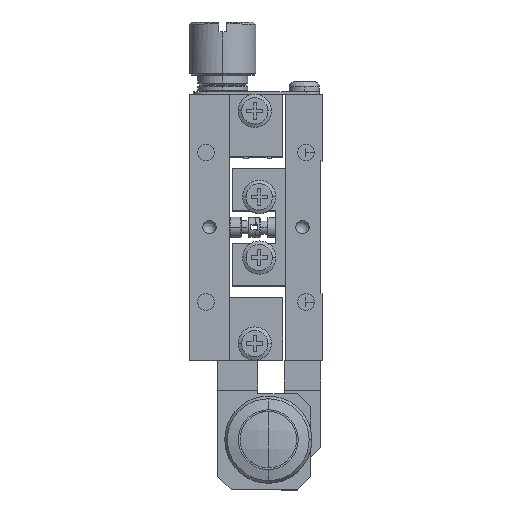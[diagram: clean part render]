
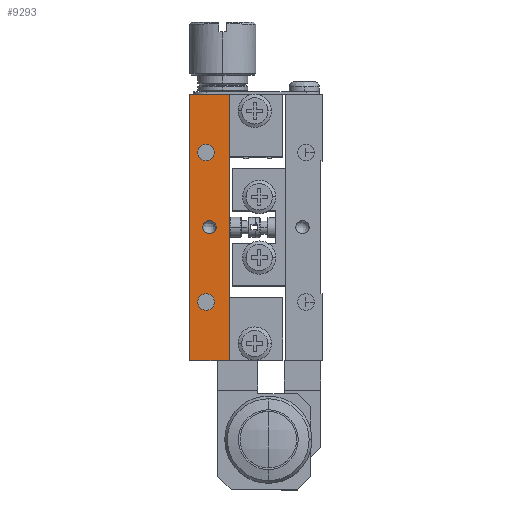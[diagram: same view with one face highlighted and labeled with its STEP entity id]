
A CAD part, top view. The second image highlights one B-rep face of the part: STEP entity #9293.
In plain terms, the highlighted planar face has unit normal (0, 0, 1).
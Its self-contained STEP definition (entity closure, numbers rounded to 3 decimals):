
#41 = CARTESIAN_POINT ( 'NONE',  ( 0., 2.722, 0. ) ) ;
#317 = VECTOR ( 'NONE', #24583, 1000. ) ;
#1327 = CARTESIAN_POINT ( 'NONE',  ( 6., 42.722, 0. ) ) ;
#1512 = CARTESIAN_POINT ( 'NONE',  ( 1.25, 11.472, 0. ) ) ;
#2452 = VERTEX_POINT ( 'NONE', #1512 ) ;
#3404 = DIRECTION ( 'NONE',  ( 0., 0., -1. ) ) ;
#3733 = AXIS2_PLACEMENT_3D ( 'NONE', #22382, #6510, #25038 ) ;
#4489 = VERTEX_POINT ( 'NONE', #41 ) ;
#4827 = CIRCLE ( 'NONE', #30861, 1.25 ) ;
#5208 = CARTESIAN_POINT ( 'NONE',  ( 7., 42.722, 0. ) ) ;
#5332 = LINE ( 'NONE', #22854, #24780 ) ;
#5737 = CARTESIAN_POINT ( 'NONE',  ( 6.12, 1.922, 0. ) ) ;
#5766 = CIRCLE ( 'NONE', #14795, 1.25 ) ;
#6506 = EDGE_CURVE ( 'NONE', #14714, #17416, #5766, .T. ) ;
#6510 = DIRECTION ( 'NONE',  ( 0., 0., -1. ) ) ;
#6718 = EDGE_CURVE ( 'NONE', #14613, #23394, #11539, .T. ) ;
#7116 = EDGE_CURVE ( 'NONE', #10207, #4489, #5332, .T. ) ;
#7528 = EDGE_CURVE ( 'NONE', #4489, #14613, #22253, .T. ) ;
#7630 = EDGE_CURVE ( 'NONE', #18199, #31587, #32989, .T. ) ;
#7863 = DIRECTION ( 'NONE',  ( 1., 0., 0. ) ) ;
#7871 = CARTESIAN_POINT ( 'NONE',  ( 2.5, 33.972, 0. ) ) ;
#8200 = CARTESIAN_POINT ( 'NONE',  ( 2., 22.722, 0. ) ) ;
#8215 = AXIS2_PLACEMENT_3D ( 'NONE', #19250, #3404, #21903 ) ;
#8273 = PLANE ( 'NONE',  #24386 ) ;
#8381 = DIRECTION ( 'NONE',  ( 0., 1., 0. ) ) ;
#8453 = EDGE_CURVE ( 'NONE', #17416, #14714, #27118, .T. ) ;
#8831 = ORIENTED_EDGE ( 'NONE', *, *, #7630, .T. ) ;
#8983 = ORIENTED_EDGE ( 'NONE', *, *, #17808, .T. ) ;
#9231 = FACE_OUTER_BOUND ( 'NONE', #15013, .T. ) ;
#9293 = ADVANCED_FACE ( 'NONE', ( #27840, #14640, #28682, #9231 ), #8273, .T. ) ;
#9476 = CARTESIAN_POINT ( 'NONE',  ( 2.5, 33.972, 0. ) ) ;
#9781 = CARTESIAN_POINT ( 'NONE',  ( 6., 22.722, 0. ) ) ;
#9812 = EDGE_CURVE ( 'NONE', #31587, #18199, #34244, .T. ) ;
#10207 = VERTEX_POINT ( 'NONE', #33996 ) ;
#10532 = DIRECTION ( 'NONE',  ( 1., 0., 0. ) ) ;
#10588 = ORIENTED_EDGE ( 'NONE', *, *, #8453, .T. ) ;
#11040 = ORIENTED_EDGE ( 'NONE', *, *, #7116, .F. ) ;
#11539 = LINE ( 'NONE', #5208, #31786 ) ;
#12160 = DIRECTION ( 'NONE',  ( 1., 0., 0. ) ) ;
#13722 = VECTOR ( 'NONE', #30944, 1000. ) ;
#14607 = CARTESIAN_POINT ( 'NONE',  ( 2.5, 11.472, 0. ) ) ;
#14613 = VERTEX_POINT ( 'NONE', #29453 ) ;
#14640 = FACE_BOUND ( 'NONE', #30943, .T. ) ;
#14714 = VERTEX_POINT ( 'NONE', #29792 ) ;
#14795 = AXIS2_PLACEMENT_3D ( 'NONE', #9476, #27980, #12160 ) ;
#15013 = EDGE_LOOP ( 'NONE', ( #16159, #11040, #22486, #29666 ) ) ;
#15131 = VERTEX_POINT ( 'NONE', #28719 ) ;
#15296 = AXIS2_PLACEMENT_3D ( 'NONE', #7871, #26364, #10532 ) ;
#15551 = CARTESIAN_POINT ( 'NONE',  ( 2.5, 11.472, 0. ) ) ;
#16159 = ORIENTED_EDGE ( 'NONE', *, *, #7528, .F. ) ;
#17273 = DIRECTION ( 'NONE',  ( 1., 0., 0. ) ) ;
#17416 = VERTEX_POINT ( 'NONE', #23743 ) ;
#17589 = EDGE_LOOP ( 'NONE', ( #21739, #8831 ) ) ;
#17808 = EDGE_CURVE ( 'NONE', #15131, #2452, #23601, .T. ) ;
#18199 = VERTEX_POINT ( 'NONE', #8200 ) ;
#18204 = DIRECTION ( 'NONE',  ( 1., 0., 0. ) ) ;
#19250 = CARTESIAN_POINT ( 'NONE',  ( 3., 22.722, 0. ) ) ;
#19286 = CARTESIAN_POINT ( 'NONE',  ( 0., 22.722, 0. ) ) ;
#21739 = ORIENTED_EDGE ( 'NONE', *, *, #9812, .T. ) ;
#21903 = DIRECTION ( 'NONE',  ( 1., 0., 0. ) ) ;
#22253 = LINE ( 'NONE', #19286, #317 ) ;
#22382 = CARTESIAN_POINT ( 'NONE',  ( 3., 22.722, 0. ) ) ;
#22486 = ORIENTED_EDGE ( 'NONE', *, *, #29261, .T. ) ;
#22748 = DIRECTION ( 'NONE',  ( -1., 0., 0. ) ) ;
#22854 = CARTESIAN_POINT ( 'NONE',  ( 7., 2.722, 0. ) ) ;
#23394 = VERTEX_POINT ( 'NONE', #1327 ) ;
#23601 = CIRCLE ( 'NONE', #25901, 1.25 ) ;
#23743 = CARTESIAN_POINT ( 'NONE',  ( 1.25, 33.972, 0. ) ) ;
#24223 = DIRECTION ( 'NONE',  ( 0., 0., 1. ) ) ;
#24289 = ORIENTED_EDGE ( 'NONE', *, *, #31147, .T. ) ;
#24386 = AXIS2_PLACEMENT_3D ( 'NONE', #5737, #24223, #8381 ) ;
#24555 = EDGE_LOOP ( 'NONE', ( #8983, #24289 ) ) ;
#24583 = DIRECTION ( 'NONE',  ( 0., 1., 0. ) ) ;
#24780 = VECTOR ( 'NONE', #22748, 1000. ) ;
#25038 = DIRECTION ( 'NONE',  ( 1., 0., 0. ) ) ;
#25901 = AXIS2_PLACEMENT_3D ( 'NONE', #14607, #33086, #17273 ) ;
#26364 = DIRECTION ( 'NONE',  ( 0., 0., -1. ) ) ;
#27118 = CIRCLE ( 'NONE', #15296, 1.25 ) ;
#27732 = LINE ( 'NONE', #9781, #13722 ) ;
#27840 = FACE_BOUND ( 'NONE', #17589, .T. ) ;
#27980 = DIRECTION ( 'NONE',  ( 0., 0., -1. ) ) ;
#28682 = FACE_BOUND ( 'NONE', #24555, .T. ) ;
#28719 = CARTESIAN_POINT ( 'NONE',  ( 3.75, 11.472, 0. ) ) ;
#29261 = EDGE_CURVE ( 'NONE', #10207, #23394, #27732, .T. ) ;
#29453 = CARTESIAN_POINT ( 'NONE',  ( 0., 42.722, 0. ) ) ;
#29666 = ORIENTED_EDGE ( 'NONE', *, *, #6718, .F. ) ;
#29792 = CARTESIAN_POINT ( 'NONE',  ( 3.75, 33.972, 0. ) ) ;
#29855 = ORIENTED_EDGE ( 'NONE', *, *, #6506, .T. ) ;
#30861 = AXIS2_PLACEMENT_3D ( 'NONE', #15551, #34024, #18204 ) ;
#30943 = EDGE_LOOP ( 'NONE', ( #29855, #10588 ) ) ;
#30944 = DIRECTION ( 'NONE',  ( 0., 1., 0. ) ) ;
#31147 = EDGE_CURVE ( 'NONE', #2452, #15131, #4827, .T. ) ;
#31587 = VERTEX_POINT ( 'NONE', #33409 ) ;
#31786 = VECTOR ( 'NONE', #7863, 1000. ) ;
#32989 = CIRCLE ( 'NONE', #3733, 1. ) ;
#33086 = DIRECTION ( 'NONE',  ( 0., 0., -1. ) ) ;
#33409 = CARTESIAN_POINT ( 'NONE',  ( 4., 22.722, 0. ) ) ;
#33996 = CARTESIAN_POINT ( 'NONE',  ( 6., 2.722, 0. ) ) ;
#34024 = DIRECTION ( 'NONE',  ( 0., 0., -1. ) ) ;
#34244 = CIRCLE ( 'NONE', #8215, 1. ) ;
